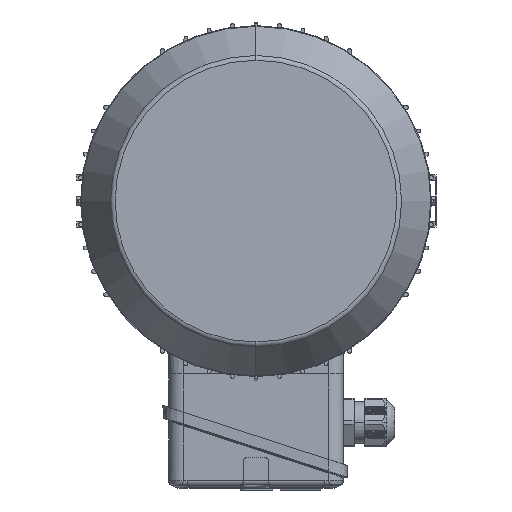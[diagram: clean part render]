
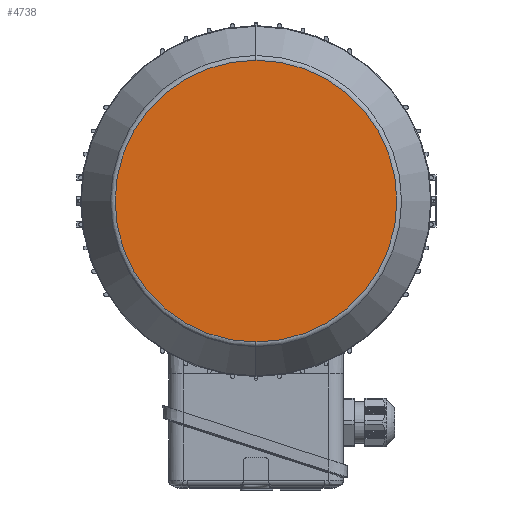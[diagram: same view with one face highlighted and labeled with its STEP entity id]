
A CAD part, left-side view. The second image highlights one B-rep face of the part: STEP entity #4738.
In plain terms, the highlighted planar face has unit normal (-1, 0, 0).
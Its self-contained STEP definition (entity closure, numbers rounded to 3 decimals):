
#1189 = EDGE_CURVE ( 'NONE', #41812, #11570, #12870, .T. ) ;
#2056 = DIRECTION ( 'NONE',  ( 1., 0., 0. ) ) ;
#2174 = DIRECTION ( 'NONE',  ( 0., 1., 0. ) ) ;
#4738 = ADVANCED_FACE ( 'NONE', ( #40111 ), #21497, .T. ) ;
#8182 = AXIS2_PLACEMENT_3D ( 'NONE', #41156, #2056, #25360 ) ;
#11570 = VERTEX_POINT ( 'NONE', #42196 ) ;
#12870 = CIRCLE ( 'NONE', #36065, 78.268 ) ;
#13029 = ORIENTED_EDGE ( 'NONE', *, *, #19405, .F. ) ;
#14984 = CARTESIAN_POINT ( 'NONE',  ( -223.5, 0., -78.268 ) ) ;
#16277 = DIRECTION ( 'NONE',  ( 0., 0., -1. ) ) ;
#18647 = CARTESIAN_POINT ( 'NONE',  ( -223.5, 0., 0. ) ) ;
#19405 = EDGE_CURVE ( 'NONE', #11570, #41812, #37967, .T. ) ;
#19834 = CARTESIAN_POINT ( 'NONE',  ( -223.5, 0., 78.268 ) ) ;
#21222 = DIRECTION ( 'NONE',  ( -1., 0., 0. ) ) ;
#21497 = PLANE ( 'NONE',  #38611 ) ;
#25360 = DIRECTION ( 'NONE',  ( 0., 0., -1. ) ) ;
#28962 = DIRECTION ( 'NONE',  ( 1., 0., 0. ) ) ;
#32948 = ORIENTED_EDGE ( 'NONE', *, *, #1189, .F. ) ;
#36065 = AXIS2_PLACEMENT_3D ( 'NONE', #18647, #28962, #16277 ) ;
#37967 = CIRCLE ( 'NONE', #8182, 78.268 ) ;
#38611 = AXIS2_PLACEMENT_3D ( 'NONE', #14984, #21222, #2174 ) ;
#40111 = FACE_OUTER_BOUND ( 'NONE', #40982, .T. ) ;
#40982 = EDGE_LOOP ( 'NONE', ( #13029, #32948 ) ) ;
#41156 = CARTESIAN_POINT ( 'NONE',  ( -223.5, 0., 0. ) ) ;
#41812 = VERTEX_POINT ( 'NONE', #19834 ) ;
#42196 = CARTESIAN_POINT ( 'NONE',  ( -223.5, 0., -78.268 ) ) ;
